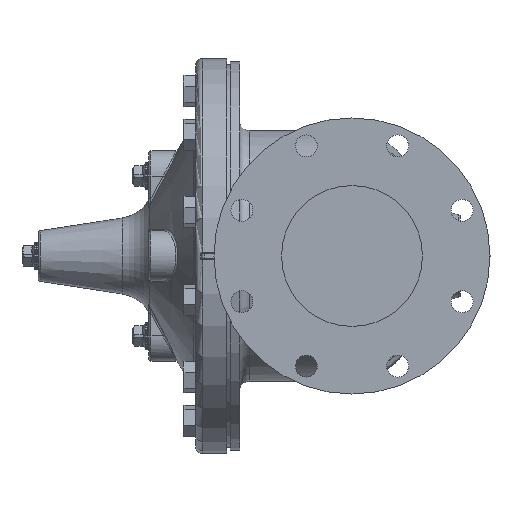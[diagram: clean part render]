
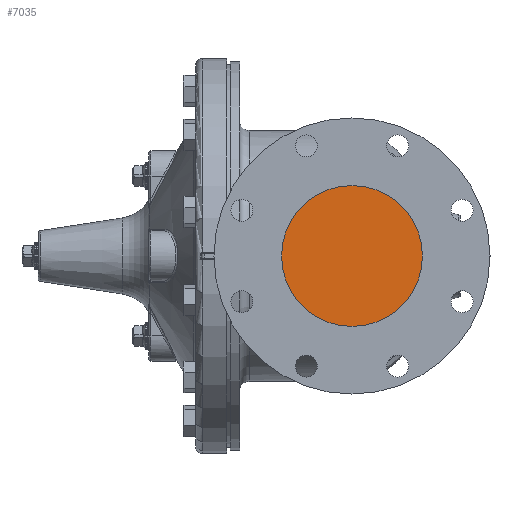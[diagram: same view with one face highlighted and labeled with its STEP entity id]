
A CAD part, left-side view. The second image highlights one B-rep face of the part: STEP entity #7035.
In plain terms, the highlighted planar face has unit normal (-1, 0, 0).
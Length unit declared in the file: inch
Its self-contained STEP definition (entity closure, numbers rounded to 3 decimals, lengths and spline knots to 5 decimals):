
#421 = DIRECTION ( 'NONE',  ( 1., 0., 0. ) ) ;
#947 = CARTESIAN_POINT ( 'NONE',  ( -5., 0., 0. ) ) ;
#1216 = CIRCLE ( 'NONE', #12526, 3.15891 ) ;
#1299 = CIRCLE ( 'NONE', #17328, 3.15891 ) ;
#4246 = CARTESIAN_POINT ( 'NONE',  ( -5., -3.15891, 0. ) ) ;
#4898 = DIRECTION ( 'NONE',  ( 1., 0., 0. ) ) ;
#6430 = VERTEX_POINT ( 'NONE', #4246 ) ;
#6433 = EDGE_LOOP ( 'NONE', ( #14800, #21432 ) ) ;
#6530 = AXIS2_PLACEMENT_3D ( 'NONE', #947, #19314, #7075 ) ;
#7035 = ADVANCED_FACE ( 'NONE', ( #11910 ), #17228, .F. ) ;
#7075 = DIRECTION ( 'NONE',  ( 0., 1., 0. ) ) ;
#11910 = FACE_OUTER_BOUND ( 'NONE', #6433, .T. ) ;
#12526 = AXIS2_PLACEMENT_3D ( 'NONE', #12597, #421, #14649 ) ;
#12597 = CARTESIAN_POINT ( 'NONE',  ( -5., 0., 0. ) ) ;
#13236 = CARTESIAN_POINT ( 'NONE',  ( -5., 3.15891, 0. ) ) ;
#14649 = DIRECTION ( 'NONE',  ( 0., 1., 0. ) ) ;
#14800 = ORIENTED_EDGE ( 'NONE', *, *, #24156, .F. ) ;
#15817 = VERTEX_POINT ( 'NONE', #13236 ) ;
#17086 = CARTESIAN_POINT ( 'NONE',  ( -5., 0., 0. ) ) ;
#17228 = PLANE ( 'NONE',  #6530 ) ;
#17328 = AXIS2_PLACEMENT_3D ( 'NONE', #17086, #4898, #19172 ) ;
#19172 = DIRECTION ( 'NONE',  ( 0., 1., 0. ) ) ;
#19314 = DIRECTION ( 'NONE',  ( 1., 0., 0. ) ) ;
#21432 = ORIENTED_EDGE ( 'NONE', *, *, #22658, .F. ) ;
#22658 = EDGE_CURVE ( 'NONE', #6430, #15817, #1216, .T. ) ;
#24156 = EDGE_CURVE ( 'NONE', #15817, #6430, #1299, .T. ) ;
